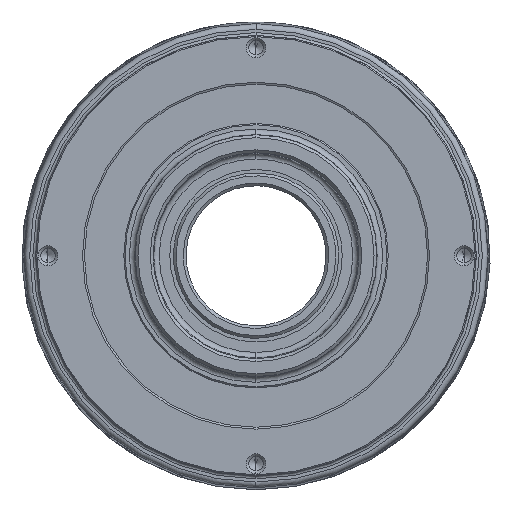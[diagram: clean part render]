
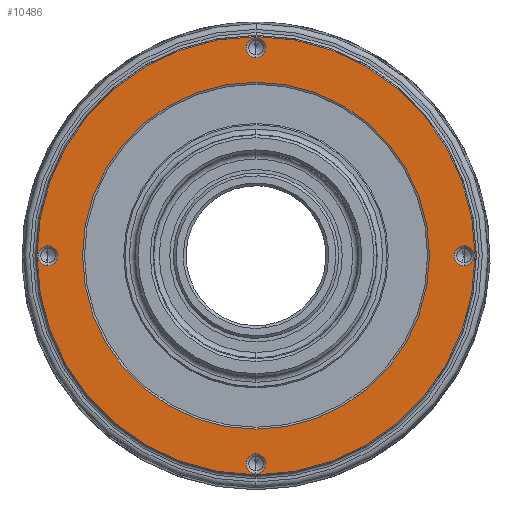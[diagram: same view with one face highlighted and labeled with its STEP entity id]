
A CAD part, front view. The second image highlights one B-rep face of the part: STEP entity #10486.
In plain terms, the highlighted planar face has unit normal (0, -1, 0).
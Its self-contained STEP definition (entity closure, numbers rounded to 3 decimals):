
#339 = AXIS2_PLACEMENT_3D ( 'NONE', #6913, #1644, #518 ) ;
#518 = DIRECTION ( 'NONE',  ( 0., 0., -1. ) ) ;
#560 = CARTESIAN_POINT ( 'NONE',  ( 0., 8., 39.76 ) ) ;
#577 = EDGE_LOOP ( 'NONE', ( #11400, #1740 ) ) ;
#640 = CARTESIAN_POINT ( 'NONE',  ( -37.75, 8., -1.8 ) ) ;
#665 = DIRECTION ( 'NONE',  ( 0., 1., 0. ) ) ;
#722 = DIRECTION ( 'NONE',  ( 0., 0., -1. ) ) ;
#786 = EDGE_LOOP ( 'NONE', ( #6958, #10016 ) ) ;
#829 = CARTESIAN_POINT ( 'NONE',  ( 37.75, 8., 1.8 ) ) ;
#1015 = DIRECTION ( 'NONE',  ( 0., 1., 0. ) ) ;
#1245 = DIRECTION ( 'NONE',  ( 0., 0., -1. ) ) ;
#1254 = AXIS2_PLACEMENT_3D ( 'NONE', #11514, #5188, #4166 ) ;
#1434 = ORIENTED_EDGE ( 'NONE', *, *, #8023, .T. ) ;
#1611 = FACE_BOUND ( 'NONE', #11066, .T. ) ;
#1644 = DIRECTION ( 'NONE',  ( 0., 1., 0. ) ) ;
#1740 = ORIENTED_EDGE ( 'NONE', *, *, #8196, .F. ) ;
#1836 = DIRECTION ( 'NONE',  ( 0., 0., -1. ) ) ;
#1938 = ORIENTED_EDGE ( 'NONE', *, *, #7668, .T. ) ;
#1999 = CARTESIAN_POINT ( 'NONE',  ( 0., 8., -37.75 ) ) ;
#2376 = AXIS2_PLACEMENT_3D ( 'NONE', #11571, #1015, #13660 ) ;
#2510 = CIRCLE ( 'NONE', #2376, 39.76 ) ;
#2611 = EDGE_LOOP ( 'NONE', ( #3134, #12948 ) ) ;
#2613 = AXIS2_PLACEMENT_3D ( 'NONE', #4991, #13576, #7204 ) ;
#2772 = EDGE_LOOP ( 'NONE', ( #7040, #1434 ) ) ;
#2922 = ORIENTED_EDGE ( 'NONE', *, *, #11866, .T. ) ;
#2985 = DIRECTION ( 'NONE',  ( 0., 1., 0. ) ) ;
#3134 = ORIENTED_EDGE ( 'NONE', *, *, #5758, .F. ) ;
#3176 = CIRCLE ( 'NONE', #9751, 39.76 ) ;
#3215 = EDGE_CURVE ( 'NONE', #13009, #11322, #12920, .T. ) ;
#3332 = ORIENTED_EDGE ( 'NONE', *, *, #5096, .T. ) ;
#3362 = CARTESIAN_POINT ( 'NONE',  ( 0., 8., -39.55 ) ) ;
#3869 = CARTESIAN_POINT ( 'NONE',  ( -37.75, 8., 1.8 ) ) ;
#3926 = PLANE ( 'NONE',  #2613 ) ;
#4092 = DIRECTION ( 'NONE',  ( 0., 1., 0. ) ) ;
#4109 = DIRECTION ( 'NONE',  ( 0., -1., 0. ) ) ;
#4166 = DIRECTION ( 'NONE',  ( 0., 0., -1. ) ) ;
#4172 = CARTESIAN_POINT ( 'NONE',  ( 37.75, 8., 0. ) ) ;
#4198 = CIRCLE ( 'NONE', #1254, 1.8 ) ;
#4205 = CIRCLE ( 'NONE', #12391, 31.48 ) ;
#4672 = CARTESIAN_POINT ( 'NONE',  ( 0., 8., 39.55 ) ) ;
#4991 = CARTESIAN_POINT ( 'NONE',  ( 0., 8., 0. ) ) ;
#5096 = EDGE_CURVE ( 'NONE', #6927, #6920, #4198, .T. ) ;
#5188 = DIRECTION ( 'NONE',  ( 0., 1., 0. ) ) ;
#5255 = EDGE_CURVE ( 'NONE', #12822, #7942, #2510, .T. ) ;
#5315 = AXIS2_PLACEMENT_3D ( 'NONE', #1999, #9417, #10482 ) ;
#5328 = EDGE_CURVE ( 'NONE', #11322, #13009, #6148, .T. ) ;
#5635 = AXIS2_PLACEMENT_3D ( 'NONE', #7282, #4109, #8359 ) ;
#5750 = FACE_BOUND ( 'NONE', #577, .T. ) ;
#5758 = EDGE_CURVE ( 'NONE', #7942, #12822, #3176, .T. ) ;
#5830 = EDGE_CURVE ( 'NONE', #8693, #8087, #7460, .T. ) ;
#5872 = CARTESIAN_POINT ( 'NONE',  ( 0., 8., 37.75 ) ) ;
#6148 = CIRCLE ( 'NONE', #5315, 1.8 ) ;
#6260 = CARTESIAN_POINT ( 'NONE',  ( 0., 8., 31.48 ) ) ;
#6913 = CARTESIAN_POINT ( 'NONE',  ( 37.75, 8., 0. ) ) ;
#6920 = VERTEX_POINT ( 'NONE', #11111 ) ;
#6927 = VERTEX_POINT ( 'NONE', #4672 ) ;
#6958 = ORIENTED_EDGE ( 'NONE', *, *, #5328, .T. ) ;
#7040 = ORIENTED_EDGE ( 'NONE', *, *, #5830, .T. ) ;
#7054 = DIRECTION ( 'NONE',  ( 0., 1., 0. ) ) ;
#7204 = DIRECTION ( 'NONE',  ( 0., 0., -1. ) ) ;
#7282 = CARTESIAN_POINT ( 'NONE',  ( 0., 8., 0. ) ) ;
#7433 = VERTEX_POINT ( 'NONE', #10867 ) ;
#7456 = CARTESIAN_POINT ( 'NONE',  ( 0., 8., 0. ) ) ;
#7460 = CIRCLE ( 'NONE', #10983, 1.8 ) ;
#7463 = ORIENTED_EDGE ( 'NONE', *, *, #13628, .T. ) ;
#7509 = DIRECTION ( 'NONE',  ( 0., -1., 0. ) ) ;
#7668 = EDGE_CURVE ( 'NONE', #8849, #11760, #12875, .T. ) ;
#7942 = VERTEX_POINT ( 'NONE', #560 ) ;
#8023 = EDGE_CURVE ( 'NONE', #8087, #8693, #8347, .T. ) ;
#8087 = VERTEX_POINT ( 'NONE', #3869 ) ;
#8196 = EDGE_CURVE ( 'NONE', #11078, #7433, #9006, .T. ) ;
#8347 = CIRCLE ( 'NONE', #8656, 1.8 ) ;
#8359 = DIRECTION ( 'NONE',  ( 0., 0., -1. ) ) ;
#8656 = AXIS2_PLACEMENT_3D ( 'NONE', #13417, #2985, #9281 ) ;
#8668 = CARTESIAN_POINT ( 'NONE',  ( 37.75, 8., -1.8 ) ) ;
#8693 = VERTEX_POINT ( 'NONE', #640 ) ;
#8849 = VERTEX_POINT ( 'NONE', #829 ) ;
#9006 = CIRCLE ( 'NONE', #5635, 31.48 ) ;
#9281 = DIRECTION ( 'NONE',  ( 0., 0., -1. ) ) ;
#9322 = CARTESIAN_POINT ( 'NONE',  ( -37.75, 8., 0. ) ) ;
#9417 = DIRECTION ( 'NONE',  ( 0., 1., 0. ) ) ;
#9419 = FACE_BOUND ( 'NONE', #11935, .T. ) ;
#9743 = FACE_OUTER_BOUND ( 'NONE', #2611, .T. ) ;
#9751 = AXIS2_PLACEMENT_3D ( 'NONE', #10272, #11523, #1836 ) ;
#10016 = ORIENTED_EDGE ( 'NONE', *, *, #3215, .T. ) ;
#10186 = CARTESIAN_POINT ( 'NONE',  ( 0., 8., -37.75 ) ) ;
#10272 = CARTESIAN_POINT ( 'NONE',  ( 0., 8., 0. ) ) ;
#10482 = DIRECTION ( 'NONE',  ( 0., 0., -1. ) ) ;
#10486 = ADVANCED_FACE ( 'NONE', ( #9419, #1611, #12228, #12584, #5750, #9743 ), #3926, .T. ) ;
#10572 = CIRCLE ( 'NONE', #13013, 1.8 ) ;
#10704 = CARTESIAN_POINT ( 'NONE',  ( 0., 8., -35.95 ) ) ;
#10867 = CARTESIAN_POINT ( 'NONE',  ( 0., 8., -31.48 ) ) ;
#10983 = AXIS2_PLACEMENT_3D ( 'NONE', #9322, #4092, #11439 ) ;
#11066 = EDGE_LOOP ( 'NONE', ( #2922, #3332 ) ) ;
#11078 = VERTEX_POINT ( 'NONE', #6260 ) ;
#11111 = CARTESIAN_POINT ( 'NONE',  ( 0., 8., 35.95 ) ) ;
#11322 = VERTEX_POINT ( 'NONE', #3362 ) ;
#11400 = ORIENTED_EDGE ( 'NONE', *, *, #12942, .F. ) ;
#11439 = DIRECTION ( 'NONE',  ( 0., 0., -1. ) ) ;
#11514 = CARTESIAN_POINT ( 'NONE',  ( 0., 8., 37.75 ) ) ;
#11523 = DIRECTION ( 'NONE',  ( 0., 1., 0. ) ) ;
#11571 = CARTESIAN_POINT ( 'NONE',  ( 0., 8., 0. ) ) ;
#11760 = VERTEX_POINT ( 'NONE', #8668 ) ;
#11818 = CIRCLE ( 'NONE', #339, 1.8 ) ;
#11866 = EDGE_CURVE ( 'NONE', #6920, #6927, #10572, .T. ) ;
#11935 = EDGE_LOOP ( 'NONE', ( #7463, #1938 ) ) ;
#12228 = FACE_BOUND ( 'NONE', #2772, .T. ) ;
#12391 = AXIS2_PLACEMENT_3D ( 'NONE', #7456, #7509, #1245 ) ;
#12521 = DIRECTION ( 'NONE',  ( 0., 1., 0. ) ) ;
#12584 = FACE_BOUND ( 'NONE', #786, .T. ) ;
#12685 = AXIS2_PLACEMENT_3D ( 'NONE', #4172, #12521, #13616 ) ;
#12734 = CARTESIAN_POINT ( 'NONE',  ( 0., 8., -39.76 ) ) ;
#12822 = VERTEX_POINT ( 'NONE', #12734 ) ;
#12875 = CIRCLE ( 'NONE', #12685, 1.8 ) ;
#12920 = CIRCLE ( 'NONE', #13136, 1.8 ) ;
#12942 = EDGE_CURVE ( 'NONE', #7433, #11078, #4205, .T. ) ;
#12948 = ORIENTED_EDGE ( 'NONE', *, *, #5255, .F. ) ;
#13009 = VERTEX_POINT ( 'NONE', #10704 ) ;
#13013 = AXIS2_PLACEMENT_3D ( 'NONE', #5872, #7054, #722 ) ;
#13136 = AXIS2_PLACEMENT_3D ( 'NONE', #10186, #665, #13527 ) ;
#13417 = CARTESIAN_POINT ( 'NONE',  ( -37.75, 8., 0. ) ) ;
#13527 = DIRECTION ( 'NONE',  ( 0., 0., -1. ) ) ;
#13576 = DIRECTION ( 'NONE',  ( 0., -1., 0. ) ) ;
#13616 = DIRECTION ( 'NONE',  ( 0., 0., -1. ) ) ;
#13628 = EDGE_CURVE ( 'NONE', #11760, #8849, #11818, .T. ) ;
#13660 = DIRECTION ( 'NONE',  ( 0., 0., -1. ) ) ;
